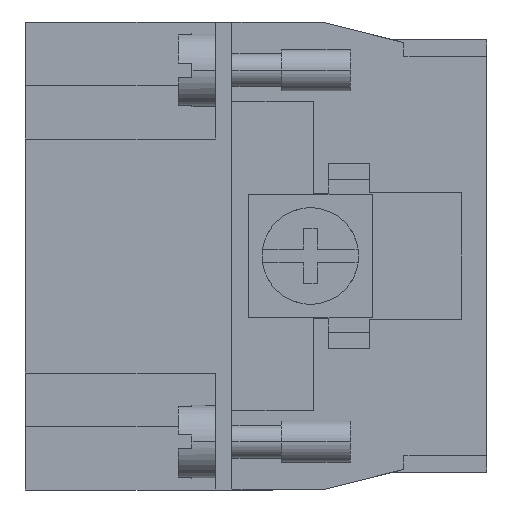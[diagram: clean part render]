
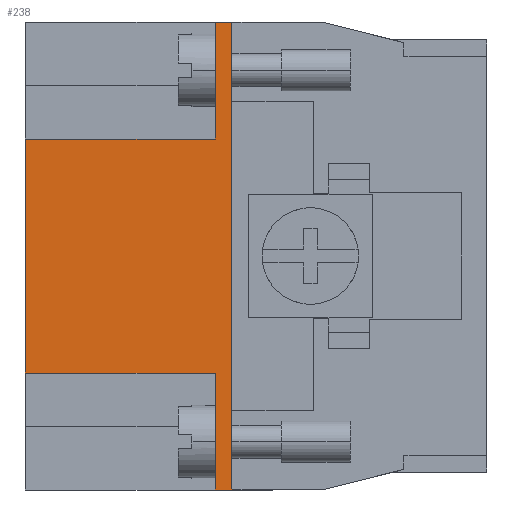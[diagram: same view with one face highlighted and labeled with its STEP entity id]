
A CAD part, left-side view. The second image highlights one B-rep face of the part: STEP entity #238.
In plain terms, the highlighted planar face has unit normal (-1, 0, 0).
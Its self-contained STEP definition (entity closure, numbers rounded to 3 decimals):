
#238 = ADVANCED_FACE ( 'NONE', ( #11250 ), #7186, .F. ) ;
#583 = LINE ( 'NONE', #11502, #10146 ) ;
#806 = LINE ( 'NONE', #5181, #11947 ) ;
#1062 = DIRECTION ( 'NONE',  ( 0., 1., 0. ) ) ;
#1274 = ORIENTED_EDGE ( 'NONE', *, *, #5379, .T. ) ;
#1324 = DIRECTION ( 'NONE',  ( 0., -1., 0. ) ) ;
#1354 = EDGE_CURVE ( 'NONE', #7927, #9457, #5499, .T. ) ;
#1974 = EDGE_CURVE ( 'NONE', #8604, #7653, #806, .T. ) ;
#2142 = VECTOR ( 'NONE', #4014, 1000. ) ;
#2296 = VECTOR ( 'NONE', #9003, 1000. ) ;
#2545 = VERTEX_POINT ( 'NONE', #11696 ) ;
#3089 = EDGE_CURVE ( 'NONE', #8604, #2545, #6640, .T. ) ;
#3155 = DIRECTION ( 'NONE',  ( 0., 0., 1. ) ) ;
#3455 = ORIENTED_EDGE ( 'NONE', *, *, #9235, .F. ) ;
#3467 = DIRECTION ( 'NONE',  ( 0., 0., 1. ) ) ;
#3506 = ORIENTED_EDGE ( 'NONE', *, *, #10907, .F. ) ;
#3710 = ORIENTED_EDGE ( 'NONE', *, *, #8351, .F. ) ;
#3797 = CARTESIAN_POINT ( 'NONE',  ( -32., -36.401, 8.5 ) ) ;
#3994 = CARTESIAN_POINT ( 'NONE',  ( -32., -15., -8.5 ) ) ;
#4014 = DIRECTION ( 'NONE',  ( 0., 0., -1. ) ) ;
#4352 = EDGE_CURVE ( 'NONE', #2545, #10962, #7719, .T. ) ;
#4756 = VECTOR ( 'NONE', #10072, 1000. ) ;
#4937 = CARTESIAN_POINT ( 'NONE',  ( -32., 0., -8.5 ) ) ;
#5147 = CARTESIAN_POINT ( 'NONE',  ( -32., -13.8, 17. ) ) ;
#5181 = CARTESIAN_POINT ( 'NONE',  ( -32., -13.8, 17. ) ) ;
#5379 = EDGE_CURVE ( 'NONE', #7854, #7927, #8175, .T. ) ;
#5411 = ORIENTED_EDGE ( 'NONE', *, *, #1354, .T. ) ;
#5444 = LINE ( 'NONE', #10719, #6084 ) ;
#5499 = LINE ( 'NONE', #4937, #2142 ) ;
#5656 = DIRECTION ( 'NONE',  ( 0., 1., 0. ) ) ;
#5798 = CARTESIAN_POINT ( 'NONE',  ( -32., -13.8, 17. ) ) ;
#6084 = VECTOR ( 'NONE', #5656, 1000. ) ;
#6133 = VECTOR ( 'NONE', #3467, 1000. ) ;
#6640 = LINE ( 'NONE', #8099, #4756 ) ;
#7055 = DIRECTION ( 'NONE',  ( 0., 0., 1. ) ) ;
#7186 = PLANE ( 'NONE',  #8557 ) ;
#7249 = VECTOR ( 'NONE', #7055, 1000. ) ;
#7653 = VERTEX_POINT ( 'NONE', #8104 ) ;
#7719 = LINE ( 'NONE', #3994, #7249 ) ;
#7742 = ORIENTED_EDGE ( 'NONE', *, *, #1974, .F. ) ;
#7854 = VERTEX_POINT ( 'NONE', #9619 ) ;
#7905 = CARTESIAN_POINT ( 'NONE',  ( -32., 0., 8.5 ) ) ;
#7927 = VERTEX_POINT ( 'NONE', #7905 ) ;
#8099 = CARTESIAN_POINT ( 'NONE',  ( -32., -13.8, -17. ) ) ;
#8104 = CARTESIAN_POINT ( 'NONE',  ( -32., -13.8, -8.5 ) ) ;
#8175 = LINE ( 'NONE', #3797, #2296 ) ;
#8318 = EDGE_LOOP ( 'NONE', ( #10711, #3710, #3455, #1274, #5411, #3506, #7742, #8520 ) ) ;
#8351 = EDGE_CURVE ( 'NONE', #10610, #10962, #583, .T. ) ;
#8520 = ORIENTED_EDGE ( 'NONE', *, *, #3089, .T. ) ;
#8557 = AXIS2_PLACEMENT_3D ( 'NONE', #9108, #11109, #1062 ) ;
#8559 = CARTESIAN_POINT ( 'NONE',  ( -32., -13.8, -17. ) ) ;
#8604 = VERTEX_POINT ( 'NONE', #8559 ) ;
#9003 = DIRECTION ( 'NONE',  ( 0., 1., 0. ) ) ;
#9108 = CARTESIAN_POINT ( 'NONE',  ( -32., -36.401, -8.5 ) ) ;
#9235 = EDGE_CURVE ( 'NONE', #7854, #10610, #11527, .T. ) ;
#9457 = VERTEX_POINT ( 'NONE', #13132 ) ;
#9619 = CARTESIAN_POINT ( 'NONE',  ( -32., -13.8, 8.5 ) ) ;
#10072 = DIRECTION ( 'NONE',  ( 0., -1., 0. ) ) ;
#10146 = VECTOR ( 'NONE', #1324, 1000. ) ;
#10610 = VERTEX_POINT ( 'NONE', #5147 ) ;
#10711 = ORIENTED_EDGE ( 'NONE', *, *, #4352, .T. ) ;
#10719 = CARTESIAN_POINT ( 'NONE',  ( -32., -36.401, -8.5 ) ) ;
#10907 = EDGE_CURVE ( 'NONE', #7653, #9457, #5444, .T. ) ;
#10962 = VERTEX_POINT ( 'NONE', #12223 ) ;
#11109 = DIRECTION ( 'NONE',  ( 1., 0., 0. ) ) ;
#11250 = FACE_OUTER_BOUND ( 'NONE', #8318, .T. ) ;
#11502 = CARTESIAN_POINT ( 'NONE',  ( -32., -13.8, 17. ) ) ;
#11527 = LINE ( 'NONE', #5798, #6133 ) ;
#11696 = CARTESIAN_POINT ( 'NONE',  ( -32., -15., -17. ) ) ;
#11947 = VECTOR ( 'NONE', #3155, 1000. ) ;
#12223 = CARTESIAN_POINT ( 'NONE',  ( -32., -15., 17. ) ) ;
#13132 = CARTESIAN_POINT ( 'NONE',  ( -32., 0., -8.5 ) ) ;
